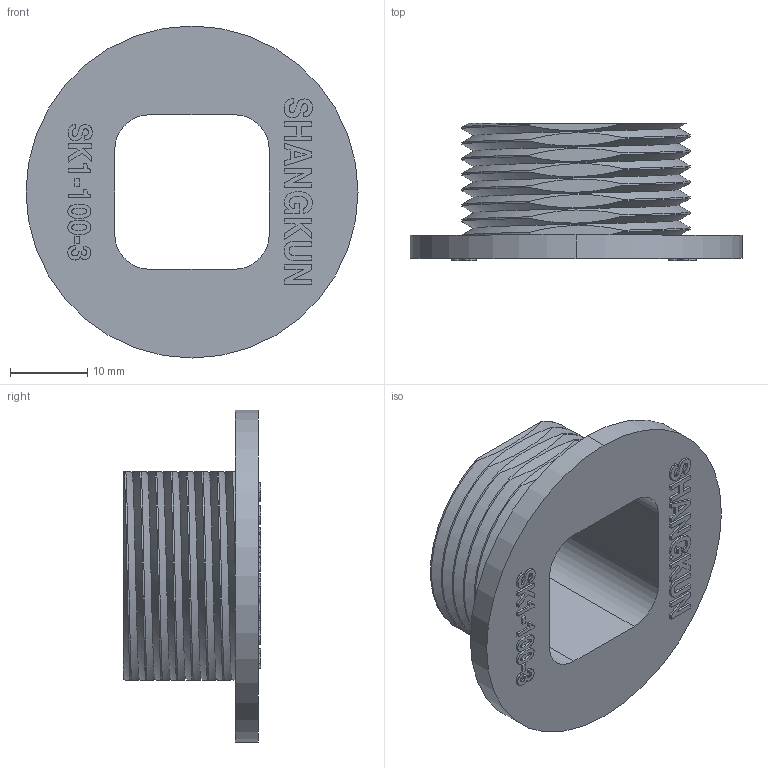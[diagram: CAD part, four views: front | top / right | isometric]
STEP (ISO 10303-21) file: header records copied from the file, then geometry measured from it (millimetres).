
FILE_DESCRIPTION (( 'STEP AP203' ), '1' );
FILE_NAME ('SK1-100-3.STEP', '2017-06-24T01:24:29', ( 'admin' ), ( 'Microsoft' ), 'SwSTEP 2.0', 'SolidWorks 2015', '' );
FILE_SCHEMA (( 'CONFIG_CONTROL_DESIGN' ));
Length unit declared in the file: millimetre
Products named in the file (1): SK1-100-3
Bounding box: 43 x 17.8 x 43 mm (x, y, z)
Volume: 6620.2 mm3; surface area: 6128.3 mm2
Topology: 1 solids, 1 shells, 256 faces, 699 edges, 466 vertices
Faces by surface type: plane 155, bspline 79, cylinder 22
Entity records: 13644 total; most frequent: CARTESIAN_POINT 7760, ORIENTED_EDGE 1398, DIRECTION 848, EDGE_CURVE 699, VERTEX_POINT 466, LINE 464, VECTOR 464, EDGE_LOOP 279
